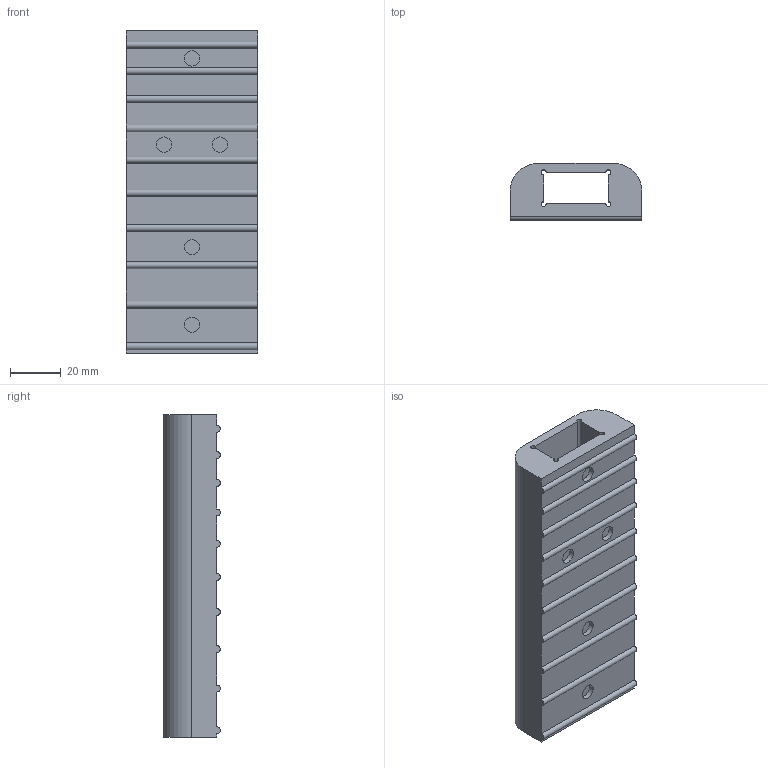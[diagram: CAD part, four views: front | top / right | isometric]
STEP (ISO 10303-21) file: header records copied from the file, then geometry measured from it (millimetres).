
FILE_DESCRIPTION(('STEP AP203'), '1');
FILE_NAME('ëàä 2áåç ãâîçäåé', '', ('UNSPECIFIED'), ('UNSPECIFIED'), 'ASCON STEP Converter 1.3', 'ASCON Math Kernel', '');
FILE_SCHEMA(('CONFIG_CONTROL_DESIGN'));
Length unit declared in the file: millimetre
Bounding box: 52 x 22.35 x 127.13 mm (x, y, z)
Volume: 91552.3 mm3; surface area: 30896.4 mm2
Topology: 1 solids, 1 shells, 46 faces, 117 edges, 78 vertices
Faces by surface type: plane 25, cylinder 21
Full cylindrical faces by diameter (mm): 6 x5
Entity records: 1794 total; most frequent: DIRECTION 248, CARTESIAN_POINT 237, ORIENTED_EDGE 224, EDGE_CURVE 112, AXIS2_PLACEMENT_3D 89, VERTEX_POINT 78, LINE 70, VECTOR 70
